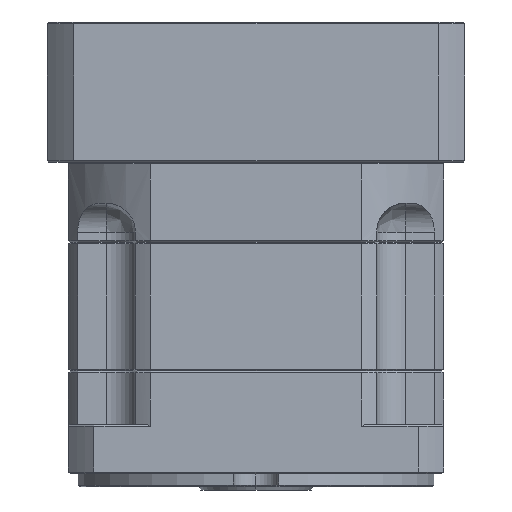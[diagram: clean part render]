
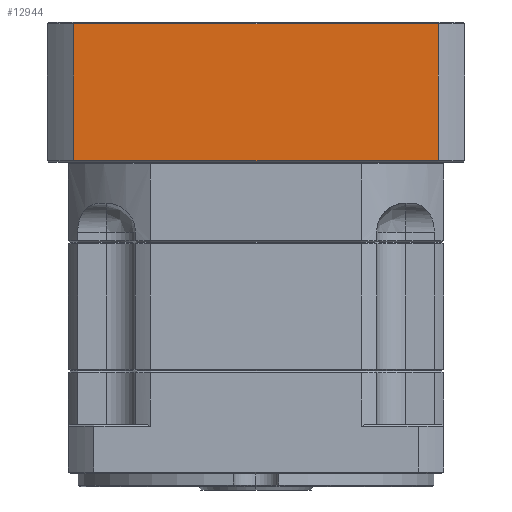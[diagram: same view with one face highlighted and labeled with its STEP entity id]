
A CAD part, left-side view. The second image highlights one B-rep face of the part: STEP entity #12944.
In plain terms, the highlighted planar face has unit normal (-1, 0, 0).
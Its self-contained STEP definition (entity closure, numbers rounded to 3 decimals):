
#392 = VECTOR ( 'NONE', #98379, 1000. ) ;
#5113 = EDGE_CURVE ( 'NONE', #99548, #91349, #37795, .T. ) ;
#5977 = CARTESIAN_POINT ( 'NONE',  ( -2.879, 121.381, -35.712 ) ) ;
#7642 = VECTOR ( 'NONE', #121949, 1000. ) ;
#8838 = DIRECTION ( 'NONE',  ( 0., -1., 0. ) ) ;
#12944 = ADVANCED_FACE ( 'NONE', ( #84078 ), #118071, .F. ) ;
#13058 = EDGE_CURVE ( 'NONE', #99548, #90564, #96832, .T. ) ;
#17281 = LINE ( 'NONE', #31213, #7642 ) ;
#27797 = DIRECTION ( 'NONE',  ( 0., 0., 1. ) ) ;
#28505 = ORIENTED_EDGE ( 'NONE', *, *, #41786, .F. ) ;
#31213 = CARTESIAN_POINT ( 'NONE',  ( -2.879, 9.506, -279.033 ) ) ;
#35374 = ORIENTED_EDGE ( 'NONE', *, *, #130401, .F. ) ;
#37187 = DIRECTION ( 'NONE',  ( 0., 1., 0. ) ) ;
#37795 = LINE ( 'NONE', #120784, #71634 ) ;
#41786 = EDGE_CURVE ( 'NONE', #91349, #52630, #65956, .T. ) ;
#43284 = CARTESIAN_POINT ( 'NONE',  ( -2.879, 9.506, -35.712 ) ) ;
#47956 = CARTESIAN_POINT ( 'NONE',  ( -2.879, 129.443, 6.288 ) ) ;
#52630 = VERTEX_POINT ( 'NONE', #89121 ) ;
#56618 = CARTESIAN_POINT ( 'NONE',  ( -2.879, 129.443, -35.712 ) ) ;
#59244 = CARTESIAN_POINT ( 'NONE',  ( -2.879, 129.443, 6.788 ) ) ;
#65956 = LINE ( 'NONE', #47956, #90005 ) ;
#71634 = VECTOR ( 'NONE', #27797, 1000. ) ;
#77217 = CARTESIAN_POINT ( 'NONE',  ( -2.879, 121.381, 6.288 ) ) ;
#82256 = AXIS2_PLACEMENT_3D ( 'NONE', #59244, #100106, #37187 ) ;
#84078 = FACE_OUTER_BOUND ( 'NONE', #97755, .T. ) ;
#89121 = CARTESIAN_POINT ( 'NONE',  ( -2.879, 9.506, 6.288 ) ) ;
#90005 = VECTOR ( 'NONE', #8838, 1000. ) ;
#90564 = VERTEX_POINT ( 'NONE', #43284 ) ;
#91349 = VERTEX_POINT ( 'NONE', #77217 ) ;
#94014 = ORIENTED_EDGE ( 'NONE', *, *, #5113, .F. ) ;
#96832 = LINE ( 'NONE', #56618, #392 ) ;
#97755 = EDGE_LOOP ( 'NONE', ( #117691, #35374, #28505, #94014 ) ) ;
#98379 = DIRECTION ( 'NONE',  ( 0., -1., 0. ) ) ;
#99548 = VERTEX_POINT ( 'NONE', #5977 ) ;
#100106 = DIRECTION ( 'NONE',  ( 1., 0., 0. ) ) ;
#117691 = ORIENTED_EDGE ( 'NONE', *, *, #13058, .T. ) ;
#118071 = PLANE ( 'NONE',  #82256 ) ;
#120784 = CARTESIAN_POINT ( 'NONE',  ( -2.879, 121.381, 6.788 ) ) ;
#121949 = DIRECTION ( 'NONE',  ( 0., 0., -1. ) ) ;
#130401 = EDGE_CURVE ( 'NONE', #52630, #90564, #17281, .T. ) ;
